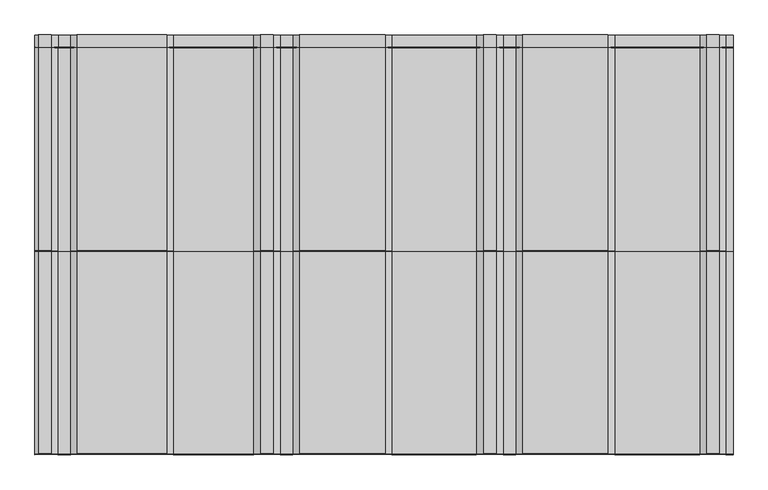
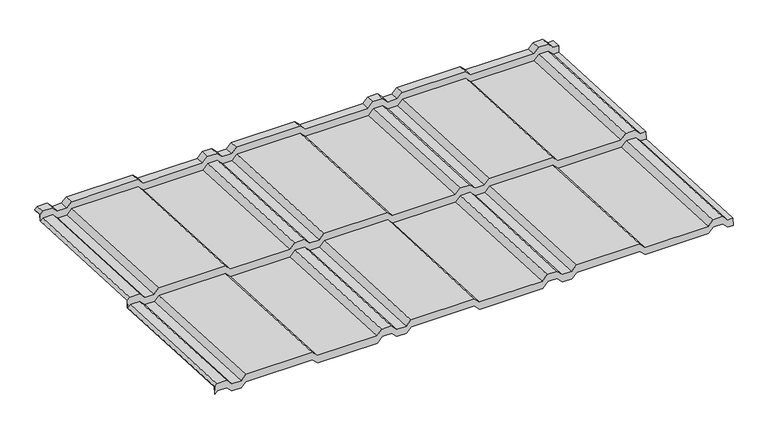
"""IFC4 building model written with IfcOpenShell, lengths in millimetres: proxy geometry, AQUAPLAST - Blachodachówka Alice : Blachodachówka Alice."""

from ifc_helpers import new_model, si_unit, origin, place, context, project, spatial, faceted_brep, source, transform, mapped, element, save


def specialty_equipment_83d03673(model_context):
    return source(origin(), model_context, "Body", "Brep", [
        faceted_brep([(-571.7598776, 0.6696996, 23.5766757), (-565.8406904, 0.9640097, 29.4885417), (-543.7088996, 0.9640097, 29.4885417), (-532.2088996, 0.3922139, 18.0027657), (-510.4160064, 0.3922139, 18.0027657), (-499.4160064, 0.939149, 28.9891601), (-345.3126919, 0.939149, 28.9891601), (-333.8126919, 0.3673532, 17.5033841), (-195.7283858, 0.3673532, 17.5033841), (-183.7283858, 0.9640097, 29.4885417), (-161.9160064, 0.9640097, 29.4885417), (-149.9160064, 0.3673532, 17.5033841), (-127.9160064, 0.3673532, 17.5033841), (-116.4160064, 0.939149, 28.9891601), (30.3015709, 0.939149, 28.9891601), (41.8015709, 0.3673532, 17.5033841), (187.7172647, 0.3673532, 17.5033841), (199.7172647, 0.9640097, 29.4885417), (221.5296441, 0.9640097, 29.4885417), (233.5296441, 0.3673532, 17.5033841), (255.5296441, 0.3673532, 17.5033841), (267.0296441, 0.939149, 28.9891601), (413.7472214, 0.939149, 28.9891601), (425.2472214, 0.3673532, 17.5033841), (571.8664164, 0.3673532, 17.5033841), (583.3664164, 0.939149, 28.9891601), (605.0839936, 0.939149, 28.9891601), (616.5839936, 0.3673532, 17.5033841), (629.2401224, 0.3673532, 17.5033841), (629.2401224, -0.4629937, 0.8240399), (616.5839936, -0.4629937, 0.8240399), (605.0839936, 0.1088021, 12.3098159), (583.3664164, 0.1088021, 12.3098159), (571.8664164, -0.4629937, 0.8240399), (425.2472214, -0.4629937, 0.8240399), (413.7472214, 0.1088021, 12.3098159), (267.0296441, 0.1088021, 12.3098159), (255.5296441, -0.4629937, 0.8240399), (233.5296441, -0.4629937, 0.8240399), (221.5296441, 0.1336628, 12.8091974), (199.7172647, 0.1336628, 12.8091974), (187.7172647, -0.4629937, 0.8240399), (41.8015709, -0.4629937, 0.8240399), (30.3015709, 0.1088021, 12.3098159), (-116.4160064, 0.1088021, 12.3098159), (-127.9160064, -0.4629937, 0.8240399), (-149.9160064, -0.4629937, 0.8240399), (-161.9160064, 0.1336628, 12.8091974), (-183.7283858, 0.1336628, 12.8091974), (-195.7283858, -0.4629937, 0.8240399), (-333.8126919, -0.4629937, 0.8240399), (-345.3126919, 0.1088021, 12.3098159), (-499.4160064, 0.1088021, 12.3098159), (-510.4160064, -0.438133, 1.3234215), (-532.2088996, -0.438133, 1.3234215), (-543.7088996, 0.1336628, 12.8091974), (-565.8406904, 0.1336628, 12.8091974), (-571.7598776, -0.1606473, 6.8973315), (-566.0477972, 699.809845, 29.1155052), (-571.7598776, 699.5258325, 23.4104899), (-571.7598776, 698.711645, 7.0557437), (-566.0477972, 698.9956575, 12.760759), (-543.5017928, 698.9956575, 12.760759), (-532.0017928, 698.4238617, 1.274983), (-510.6231132, 698.4238617, 1.274983), (-499.6231132, 698.9707968, 12.2613774), (-345.1055852, 698.9707968, 12.2613774), (-333.6055852, 698.399001, 0.7756015), (-195.9354926, 698.399001, 0.7756015), (-183.9354926, 698.9956575, 12.760759), (-161.7088996, 698.9956575, 12.760759), (-149.7088996, 698.399001, 0.7756015), (-128.1231132, 698.399001, 0.7756015), (-116.6231132, 698.9707968, 12.2613774), (30.5086777, 698.9707968, 12.2613774), (42.0086777, 698.399001, 0.7756015), (187.5101579, 698.399001, 0.7756015), (199.5101579, 698.9956575, 12.760759), (221.7367509, 698.9956575, 12.760759), (233.7367509, 698.399001, 0.7756015), (255.3225373, 698.399001, 0.7756015), (266.8225373, 698.9707968, 12.2613774), (413.9543281, 698.9707968, 12.2613774), (425.4543281, 698.399001, 0.7756015), (571.6593096, 698.399001, 0.7756015), (583.1593096, 698.9707968, 12.2613774), (605.2911004, 698.9707968, 12.2613774), (616.7911004, 698.399001, 0.7756015), (629.2401224, 698.399001, 0.7756015), (629.2401224, 699.2131885, 17.1303477), (616.7911004, 699.2131885, 17.1303477), (605.2911004, 699.7849843, 28.6161237), (583.1593096, 699.7849843, 28.6161237), (571.6593096, 699.2131885, 17.1303477), (425.4543281, 699.2131885, 17.1303477), (413.9543281, 699.7849843, 28.6161237), (266.8225373, 699.7849843, 28.6161237), (255.3225373, 699.2131885, 17.1303477), (233.7367509, 699.2131885, 17.1303477), (221.7367509, 699.809845, 29.1155052), (199.5101579, 699.809845, 29.1155052), (187.5101579, 699.2131885, 17.1303477), (42.0086777, 699.2131885, 17.1303477), (30.5086777, 699.7849843, 28.6161237), (-116.6231132, 699.7849843, 28.6161237), (-128.1231132, 699.2131885, 17.1303477), (-149.7088996, 699.2131885, 17.1303477), (-161.7088996, 699.809845, 29.1155052), (-183.9354926, 699.809845, 29.1155052), (-195.9354926, 699.2131885, 17.1303477), (-333.6055852, 699.2131885, 17.1303477), (-345.1055852, 699.7849843, 28.6161237), (-499.6231132, 699.7849843, 28.6161237), (-510.6231132, 699.2380492, 17.6297293), (-532.0017928, 699.2380492, 17.6297293), (-543.5017928, 699.809845, 29.1155052), (-510.4160064, 720.1872142, 16.0861988), (-532.2088996, 720.1872142, 16.0861988), (-543.7088996, 720.75901, 27.5719748), (-565.8406904, 720.75901, 27.5719748), (-571.7598776, 720.4646999, 21.6601089), (-571.7598776, 720.4998582, 22.3663411), (-566.0477972, 720.7838707, 28.0713564), (-543.5017928, 720.7838707, 28.0713564), (-532.0017928, 720.2120749, 16.5855804), (-510.6231132, 720.2120749, 16.5855804), (-499.6231132, 720.75901, 27.5719748), (-345.1055852, 720.75901, 27.5719748), (-333.6055852, 720.1872142, 16.0861988), (-195.9354926, 720.1872142, 16.0861988), (-183.9354926, 720.7838707, 28.0713564), (-161.7088996, 720.7838707, 28.0713564), (-149.7088996, 720.1872142, 16.0861988), (-128.1231132, 720.1872142, 16.0861988), (-116.6231132, 720.75901, 27.5719748), (30.5086777, 720.75901, 27.5719748), (42.0086777, 720.1872142, 16.0861988), (187.5101579, 720.1872142, 16.0861988), (199.5101579, 720.7838707, 28.0713564), (221.7367509, 720.7838707, 28.0713564), (233.7367509, 720.1872142, 16.0861988), (255.3225373, 720.1872142, 16.0861988), (266.8225373, 720.75901, 27.5719748), (413.9543281, 720.75901, 27.5719748), (425.4543281, 720.1872142, 16.0861988), (571.6593096, 720.1872142, 16.0861988), (583.1593096, 720.75901, 27.5719748), (605.2911004, 720.75901, 27.5719748), (616.7911004, 720.1872142, 16.0861988), (629.2401224, 720.1872142, 16.0861988), (629.2401224, 720.1623535, 15.5868173), (616.5839936, 720.1623535, 15.5868173), (605.0839936, 720.7341493, 27.0725932), (583.3664164, 720.7341493, 27.0725932), (571.8664164, 720.1623535, 15.5868173), (425.2472214, 720.1623535, 15.5868173), (413.7472214, 720.7341493, 27.0725932), (267.0296441, 720.7341493, 27.0725932), (255.5296441, 720.1623535, 15.5868173), (233.5296441, 720.1623535, 15.5868173), (221.5296441, 720.75901, 27.5719748), (199.7172647, 720.75901, 27.5719748), (187.7172647, 720.1623535, 15.5868173), (41.8015709, 720.1623535, 15.5868173), (30.3015709, 720.7341493, 27.0725932), (-116.4160064, 720.7341493, 27.0725932), (-127.9160064, 720.1623535, 15.5868173), (-149.9160064, 720.1623535, 15.5868173), (-161.9160064, 720.75901, 27.5719748), (-183.7283858, 720.75901, 27.5719748), (-195.7283858, 720.1623535, 15.5868173), (-333.8126919, 720.1623535, 15.5868173), (-345.3126919, 720.7341493, 27.0725932), (-499.4160064, 720.7341493, 27.0725932), (-571.7598776, 699.6752498, 6.2997901), (-571.7598776, 700.4894373, 22.6545364), (-565.8406904, 700.7837474, 28.5664023), (-543.7088996, 700.7837474, 28.5664023), (-532.2088996, 700.2119516, 17.0806263), (-510.4160064, 700.2119516, 17.0806263), (-499.4160064, 700.7588868, 28.0670207), (-345.3126919, 700.7588868, 28.0670207), (-333.8126919, 700.187091, 16.5812448), (-195.7283858, 700.187091, 16.5812448), (-183.7283858, 700.7837474, 28.5664023), (-161.9160064, 700.7837474, 28.5664023), (-149.9160064, 700.187091, 16.5812448), (-127.9160064, 700.187091, 16.5812448), (-116.4160064, 700.7588868, 28.0670207), (30.3015709, 700.7588868, 28.0670207), (41.8015709, 700.187091, 16.5812448), (187.7172647, 700.187091, 16.5812448), (199.7172647, 700.7837474, 28.5664023), (221.5296441, 700.7837474, 28.5664023), (233.5296441, 700.187091, 16.5812448), (255.5296441, 700.187091, 16.5812448), (267.0296441, 700.7588868, 28.0670207), (413.7472214, 700.7588868, 28.0670207), (425.2472214, 700.187091, 16.5812448), (571.8664164, 700.187091, 16.5812448), (583.3664164, 700.7588868, 28.0670207), (605.0839936, 700.7588868, 28.0670207), (616.5839936, 700.187091, 16.5812448), (629.2401224, 700.187091, 16.5812448), (629.2401224, 699.3729035, 0.2264985), (616.5839936, 699.3729035, 0.2264985), (605.0839936, 699.9446993, 11.7122745), (583.3664164, 699.9446993, 11.7122745), (571.8664164, 699.3729035, 0.2264985), (425.2472214, 699.3729035, 0.2264985), (413.7472214, 699.9446993, 11.7122745), (267.0296441, 699.9446993, 11.7122745), (255.5296441, 699.3729035, 0.2264985), (233.5296441, 699.3729035, 0.2264985), (221.5296441, 699.9695599, 12.2116561), (199.7172647, 699.9695599, 12.2116561), (187.7172647, 699.3729035, 0.2264985), (41.8015709, 699.3729035, 0.2264985), (30.3015709, 699.9446993, 11.7122745), (-116.4160064, 699.9446993, 11.7122745), (-127.9160064, 699.3729035, 0.2264985), (-149.9160064, 699.3729035, 0.2264985), (-161.9160064, 699.9695599, 12.2116561), (-183.7283858, 699.9695599, 12.2116561), (-195.7283858, 699.3729035, 0.2264985), (-333.8126919, 699.3729035, 0.2264985), (-345.3126919, 699.9446993, 11.7122745), (-499.4160064, 699.9446993, 11.7122745), (-510.4160064, 699.3977641, 0.7258801), (-532.2088996, 699.3977641, 0.7258801), (-543.7088996, 699.9695599, 12.2116561), (-565.8406904, 699.9695599, 12.2116561), (-566.0477972, 349.4285629, 30.1632399), (-571.7598776, 349.1445504, 24.4582245), (-571.7598776, 348.2744263, 6.9798698), (-566.0477972, 348.5584388, 12.6848851), (-543.5017928, 348.5584388, 12.6848851), (-532.0017928, 347.986643, 1.1991092), (-510.6231132, 347.986643, 1.1991092), (-499.6231132, 348.5335781, 12.1855036), (-345.1055852, 348.5335781, 12.1855036), (-333.6055852, 347.9617823, 0.6997276), (-195.9354926, 347.9617823, 0.6997276), (-183.9354926, 348.5584388, 12.6848851), (-161.7088996, 348.5584388, 12.6848851), (-149.7088996, 347.9617823, 0.6997276), (-128.1231132, 347.9617823, 0.6997276), (-116.6231132, 348.5335781, 12.1855036), (30.5086777, 348.5335781, 12.1855036), (42.0086777, 347.9617823, 0.6997276), (187.5101579, 347.9617823, 0.6997276), (199.5101579, 348.5584388, 12.6848851), (221.7367509, 348.5584388, 12.6848851), (233.7367509, 347.9617823, 0.6997276), (255.3225373, 347.9617823, 0.6997276), (266.8225373, 348.5335781, 12.1855036), (413.9543281, 348.5335781, 12.1855036), (425.4543281, 347.9617823, 0.6997276), (571.6593096, 347.9617823, 0.6997276), (583.1593096, 348.5335781, 12.1855036), (605.2911004, 348.5335781, 12.1855036), (616.7911004, 347.9617823, 0.6997276), (629.2401224, 347.9617823, 0.6997276), (629.2401224, 348.8319064, 18.1780823), (616.7911004, 348.8319064, 18.1780823), (605.2911004, 349.4037022, 29.6638583), (583.1593096, 349.4037022, 29.6638583), (571.6593096, 348.8319064, 18.1780823), (425.4543281, 348.8319064, 18.1780823), (413.9543281, 349.4037022, 29.6638583), (266.8225373, 349.4037022, 29.6638583), (255.3225373, 348.8319064, 18.1780823), (233.7367509, 348.8319064, 18.1780823), (221.7367509, 349.4285629, 30.1632399), (199.5101579, 349.4285629, 30.1632399), (187.5101579, 348.8319064, 18.1780823), (42.0086777, 348.8319064, 18.1780823), (30.5086777, 349.4037022, 29.6638583), (-116.6231132, 349.4037022, 29.6638583), (-128.1231132, 348.8319064, 18.1780823), (-149.7088996, 348.8319064, 18.1780823), (-161.7088996, 349.4285629, 30.1632399), (-183.9354926, 349.4285629, 30.1632399), (-195.9354926, 348.8319064, 18.1780823), (-333.6055852, 348.8319064, 18.1780823), (-345.1055852, 349.4037022, 29.6638583), (-499.6231132, 349.4037022, 29.6638583), (-510.6231132, 348.8567671, 18.6774639), (-532.0017928, 348.8567671, 18.6774639), (-543.5017928, 349.4285629, 30.1632399), (629.2401224, 349.8058088, 17.6289794), (616.5839936, 349.8058088, 17.6289794), (605.0839936, 350.3776046, 29.1147554), (583.3664164, 350.3776046, 29.1147554), (571.8664164, 349.8058088, 17.6289794), (425.2472214, 349.8058088, 17.6289794), (413.7472214, 350.3776046, 29.1147554), (267.0296441, 350.3776046, 29.1147554), (255.5296441, 349.8058088, 17.6289794), (233.5296441, 349.8058088, 17.6289794), (221.5296441, 350.4024653, 29.6141369), (199.7172647, 350.4024653, 29.6141369), (187.7172647, 349.8058088, 17.6289794), (41.8015709, 349.8058088, 17.6289794), (30.3015709, 350.3776046, 29.1147554), (-116.4160064, 350.3776046, 29.1147554), (-127.9160064, 349.8058088, 17.6289794), (-149.9160064, 349.8058088, 17.6289794), (-161.9160064, 350.4024653, 29.6141369), (-183.7283858, 350.4024653, 29.6141369), (-195.7283858, 349.8058088, 17.6289794), (-333.8126919, 349.8058088, 17.6289794), (-345.3126919, 350.3776046, 29.1147554), (-499.4160064, 350.3776046, 29.1147554), (-510.4160064, 349.8306695, 18.128361), (-532.2088996, 349.8306695, 18.128361), (-543.7088996, 350.4024653, 29.6141369), (-565.8406904, 350.4024653, 29.6141369), (-571.7598776, 350.1081552, 23.702271), (-566.0477972, -0.0098927, 30.0376446), (-571.7598776, -0.2939052, 24.3326293), (-571.7598776, -1.1594105, 6.9470529), (-565.8406904, -0.8651003, 12.8589188), (-543.7088996, -0.8651003, 12.8589188), (-532.2088996, -1.4368961, 1.3731429), (-510.4160064, -1.4368961, 1.3731429), (-499.4160064, -0.889961, 12.3595373), (-345.3126919, -0.889961, 12.3595373), (-333.8126919, -1.4617568, 0.8737613), (-195.7283858, -1.4617568, 0.8737613), (-183.7283858, -0.8651003, 12.8589188), (-161.9160064, -0.8651003, 12.8589188), (-149.9160064, -1.4617568, 0.8737613), (-127.9160064, -1.4617568, 0.8737613), (-116.4160064, -0.889961, 12.3595373), (30.3015709, -0.889961, 12.3595373), (41.8015709, -1.4617568, 0.8737613), (187.7172647, -1.4617568, 0.8737613), (199.7172647, -0.8651003, 12.8589188), (221.5296441, -0.8651003, 12.8589188), (233.5296441, -1.4617568, 0.8737613), (255.5296441, -1.4617568, 0.8737613), (267.0296441, -0.889961, 12.3595373), (413.7472214, -0.889961, 12.3595373), (425.2472214, -1.4617568, 0.8737613), (571.8664164, -1.4617568, 0.8737613), (583.3664164, -0.889961, 12.3595373), (605.0839936, -0.889961, 12.3595373), (616.5839936, -1.4617568, 0.8737613), (629.2401224, -1.4617568, 0.8737613), (629.2401224, -0.6065492, 18.0524871), (616.7911004, -0.6065492, 18.0524871), (605.2911004, -0.0347534, 29.538263), (583.1593096, -0.0347534, 29.538263), (571.6593096, -0.6065492, 18.0524871), (425.4543281, -0.6065492, 18.0524871), (413.9543281, -0.0347534, 29.538263), (266.8225373, -0.0347534, 29.538263), (255.3225373, -0.6065492, 18.0524871), (233.7367509, -0.6065492, 18.0524871), (221.7367509, -0.0098927, 30.0376446), (199.5101579, -0.0098927, 30.0376446), (187.5101579, -0.6065492, 18.0524871), (42.0086777, -0.6065492, 18.0524871), (30.5086777, -0.0347534, 29.538263), (-116.6231132, -0.0347534, 29.538263), (-128.1231132, -0.6065492, 18.0524871), (-149.7088996, -0.6065492, 18.0524871), (-161.7088996, -0.0098927, 30.0376446), (-183.9354926, -0.0098927, 30.0376446), (-195.9354926, -0.6065492, 18.0524871), (-333.6055852, -0.6065492, 18.0524871), (-345.1055852, -0.0347534, 29.538263), (-499.6231132, -0.0347534, 29.538263), (-510.6231132, -0.5816885, 18.5518686), (-532.0017928, -0.5816885, 18.5518686), (-543.5017928, -0.0098927, 30.0376446), (-510.4160064, 348.9605455, 0.6500062), (-532.2088996, 348.9605455, 0.6500062), (-543.7088996, 349.5323413, 12.1357822), (-565.8406904, 349.5323413, 12.1357822), (-571.7598776, 349.2380311, 6.2239163), (629.2401224, 348.9356848, 0.1506247), (616.5839936, 348.9356848, 0.1506247), (605.0839936, 349.5074806, 11.6364006), (583.3664164, 349.5074806, 11.6364006), (571.8664164, 348.9356848, 0.1506247), (425.2472214, 348.9356848, 0.1506247), (413.7472214, 349.5074806, 11.6364006), (267.0296441, 349.5074806, 11.6364006), (255.5296441, 348.9356848, 0.1506247), (233.5296441, 348.9356848, 0.1506247), (221.5296441, 349.5323413, 12.1357822), (199.7172647, 349.5323413, 12.1357822), (187.7172647, 348.9356848, 0.1506247), (41.8015709, 348.9356848, 0.1506247), (30.3015709, 349.5074806, 11.6364006), (-116.4160064, 349.5074806, 11.6364006), (-127.9160064, 348.9356848, 0.1506247), (-149.9160064, 348.9356848, 0.1506247), (-161.9160064, 349.5323413, 12.1357822), (-183.7283858, 349.5323413, 12.1357822), (-195.7283858, 348.9356848, 0.1506247), (-333.8126919, 348.9356848, 0.1506247), (-345.3126919, 349.5074806, 11.6364006), (-499.4160064, 349.5074806, 11.6364006), (616.5839936, 347.9369216, 0.200346), (605.0839936, 348.5087174, 11.686122), (583.3664164, 348.5087174, 11.686122), (571.8664164, 347.9369216, 0.200346), (425.2472214, 347.9369216, 0.200346), (413.7472214, 348.5087174, 11.686122), (267.0296441, 348.5087174, 11.686122), (255.5296441, 347.9369216, 0.200346), (233.5296441, 347.9369216, 0.200346), (221.5296441, 348.5335781, 12.1855036), (199.7172647, 348.5335781, 12.1855036), (187.7172647, 347.9369216, 0.200346), (41.8015709, 347.9369216, 0.200346), (30.3015709, 348.5087174, 11.686122), (-116.4160064, 348.5087174, 11.686122), (-127.9160064, 347.9369216, 0.200346), (-149.9160064, 347.9369216, 0.200346), (-161.9160064, 348.5335781, 12.1855036), (-183.7283858, 348.5335781, 12.1855036), (-195.7283858, 347.9369216, 0.200346), (-333.8126919, 347.9369216, 0.200346), (-345.3126919, 348.5087174, 11.686122), (-499.4160064, 348.5087174, 11.686122), (-510.4160064, 347.9617823, 0.6997276), (-532.2088996, 347.9617823, 0.6997276), (-543.7088996, 348.5335781, 12.1855036), (-565.8406904, 348.5335781, 12.1855036), (-566.0477972, 700.8086081, 29.0657839), (-543.5017928, 700.8086081, 29.0657839), (-532.0017928, 700.2368123, 17.5800079), (-510.6231132, 700.2368123, 17.5800079), (-499.6231132, 700.7837474, 28.5664023), (-345.1055852, 700.7837474, 28.5664023), (-333.6055852, 700.2119516, 17.0806263), (-195.9354926, 700.2119516, 17.0806263), (-183.9354926, 700.8086081, 29.0657839), (-161.7088996, 700.8086081, 29.0657839), (-149.7088996, 700.2119516, 17.0806263), (-128.1231132, 700.2119516, 17.0806263), (-116.6231132, 700.7837474, 28.5664023), (30.5086777, 700.7837474, 28.5664023), (42.0086777, 700.2119516, 17.0806263), (187.5101579, 700.2119516, 17.0806263), (199.5101579, 700.8086081, 29.0657839), (221.7367509, 700.8086081, 29.0657839), (233.7367509, 700.2119516, 17.0806263), (255.3225373, 700.2119516, 17.0806263), (266.8225373, 700.7837474, 28.5664023), (413.9543281, 700.7837474, 28.5664023), (425.4543281, 700.2119516, 17.0806263), (571.6593096, 700.2119516, 17.0806263), (583.1593096, 700.7837474, 28.5664023), (605.2911004, 700.7837474, 28.5664023), (616.7911004, 700.2119516, 17.0806263)], [[[0, 1, 2, 3, 4, 5, 6, 7, 8, 9, 10, 11, 12, 13, 14, 15, 16, 17, 18, 19, 20, 21, 22, 23, 24, 25, 26, 27, 28, 29, 30, 31, 32, 33, 34, 35, 36, 37, 38, 39, 40, 41, 42, 43, 44, 45, 46, 47, 48, 49, 50, 51, 52, 53, 54, 55, 56, 57]], [[58, 59, 60, 61, 62, 63, 64, 65, 66, 67, 68, 69, 70, 71, 72, 73, 74, 75, 76, 77, 78, 79, 80, 81, 82, 83, 84, 85, 86, 87, 88, 89, 90, 91, 92, 93, 94, 95, 96, 97, 98, 99, 100, 101, 102, 103, 104, 105, 106, 107, 108, 109, 110, 111, 112, 113, 114, 115]], [[116, 117, 118, 119, 120, 121, 122, 123, 124, 125, 126, 127, 128, 129, 130, 131, 132, 133, 134, 135, 136, 137, 138, 139, 140, 141, 142, 143, 144, 145, 146, 147, 148, 149, 150, 151, 152, 153, 154, 155, 156, 157, 158, 159, 160, 161, 162, 163, 164, 165, 166, 167, 168, 169, 170, 171, 172, 173]], [[174, 175, 176, 177, 178, 179, 180, 181, 182, 183, 184, 185, 186, 187, 188, 189, 190, 191, 192, 193, 194, 195, 196, 197, 198, 199, 200, 201, 202, 203, 204, 205, 206, 207, 208, 209, 210, 211, 212, 213, 214, 215, 216, 217, 218, 219, 220, 221, 222, 223, 224, 225, 226, 227, 228, 229, 230, 231]], [[232, 233, 234, 235, 236, 237, 238, 239, 240, 241, 242, 243, 244, 245, 246, 247, 248, 249, 250, 251, 252, 253, 254, 255, 256, 257, 258, 259, 260, 261, 262, 263, 264, 265, 266, 267, 268, 269, 270, 271, 272, 273, 274, 275, 276, 277, 278, 279, 280, 281, 282, 283, 284, 285, 286, 287, 288, 289]], [[287, 64, 63, 288]], [[286, 65, 64, 287]], [[285, 66, 65, 286]], [[284, 67, 66, 285]], [[283, 68, 67, 284]], [[282, 69, 68, 283]], [[281, 70, 69, 282]], [[280, 71, 70, 281]], [[279, 72, 71, 280]], [[278, 73, 72, 279]], [[277, 74, 73, 278]], [[276, 75, 74, 277]], [[275, 76, 75, 276]], [[274, 77, 76, 275]], [[273, 78, 77, 274]], [[272, 79, 78, 273]], [[271, 80, 79, 272]], [[270, 81, 80, 271]], [[269, 82, 81, 270]], [[268, 83, 82, 269]], [[267, 84, 83, 268]], [[266, 85, 84, 267]], [[265, 86, 85, 266]], [[264, 87, 86, 265]], [[264, 263, 88, 87]], [[204, 290, 291, 205]], [[205, 291, 292, 206]], [[206, 292, 293, 207]], [[207, 293, 294, 208]], [[208, 294, 295, 209]], [[209, 295, 296, 210]], [[210, 296, 297, 211]], [[211, 297, 298, 212]], [[212, 298, 299, 213]], [[213, 299, 300, 214]], [[214, 300, 301, 215]], [[215, 301, 302, 216]], [[216, 302, 303, 217]], [[217, 303, 304, 218]], [[218, 304, 305, 219]], [[219, 305, 306, 220]], [[220, 306, 307, 221]], [[221, 307, 308, 222]], [[222, 308, 309, 223]], [[223, 309, 310, 224]], [[224, 310, 311, 225]], [[225, 311, 312, 226]], [[226, 312, 313, 227]], [[227, 313, 314, 228]], [[228, 314, 315, 229]], [[229, 315, 316, 230]], [[230, 316, 317, 231]], [[231, 317, 318, 174]], [[61, 60, 233, 232]], [[289, 62, 61, 232]], [[288, 63, 62, 289]], [[319, 320, 321, 322, 323, 324, 325, 326, 327, 328, 329, 330, 331, 332, 333, 334, 335, 336, 337, 338, 339, 340, 341, 342, 343, 344, 345, 346, 347, 348, 349, 350, 351, 352, 353, 354, 355, 356, 357, 358, 359, 360, 361, 362, 363, 364, 365, 366, 367, 368, 369, 370, 371, 372, 373, 374, 375, 376]], [[377, 378, 379, 380, 381, 318, 317, 316, 315, 314, 313, 312, 311, 310, 309, 308, 307, 306, 305, 304, 303, 302, 301, 300, 299, 298, 297, 296, 295, 294, 293, 292, 291, 290, 382, 383, 384, 385, 386, 387, 388, 389, 390, 391, 392, 393, 394, 395, 396, 397, 398, 399, 400, 401, 402, 403, 404, 405]], [[374, 238, 237, 375]], [[373, 239, 238, 374]], [[372, 240, 239, 373]], [[371, 241, 240, 372]], [[370, 242, 241, 371]], [[369, 243, 242, 370]], [[368, 244, 243, 369]], [[367, 245, 244, 368]], [[366, 246, 245, 367]], [[365, 247, 246, 366]], [[364, 248, 247, 365]], [[363, 249, 248, 364]], [[362, 250, 249, 363]], [[361, 251, 250, 362]], [[360, 252, 251, 361]], [[359, 253, 252, 360]], [[358, 254, 253, 359]], [[357, 255, 254, 358]], [[356, 256, 255, 357]], [[355, 257, 256, 356]], [[354, 258, 257, 355]], [[353, 259, 258, 354]], [[352, 260, 259, 353]], [[351, 261, 260, 352]], [[351, 350, 262, 261]], [[382, 28, 27, 406, 383]], [[383, 406, 27, 26, 407, 384]], [[384, 407, 26, 25, 408, 385]], [[385, 408, 25, 24, 409, 386]], [[386, 409, 24, 23, 410, 387]], [[387, 410, 23, 22, 411, 388]], [[388, 411, 22, 21, 412, 389]], [[389, 412, 21, 20, 413, 390]], [[390, 413, 20, 19, 414, 391]], [[391, 414, 19, 18, 415, 392]], [[392, 415, 18, 17, 416, 393]], [[393, 416, 17, 16, 417, 394]], [[394, 417, 16, 15, 418, 395]], [[395, 418, 15, 14, 419, 396]], [[396, 419, 14, 13, 420, 397]], [[397, 420, 13, 12, 421, 398]], [[398, 421, 12, 11, 422, 399]], [[399, 422, 11, 10, 423, 400]], [[400, 423, 10, 9, 424, 401]], [[401, 424, 9, 8, 425, 402]], [[402, 425, 8, 7, 426, 403]], [[403, 426, 7, 6, 427, 404]], [[404, 427, 6, 5, 428, 405]], [[405, 428, 5, 4, 429, 377]], [[377, 429, 4, 3, 430, 378]], [[378, 430, 3, 2, 431, 379]], [[379, 431, 2, 1, 432, 380]], [[432, 1, 0, 381, 380]], [[235, 234, 320, 319]], [[376, 236, 235, 319]], [[375, 237, 236, 376]], [[348, 30, 29, 349]], [[347, 31, 30, 348]], [[346, 32, 31, 347]], [[345, 33, 32, 346]], [[344, 34, 33, 345]], [[343, 35, 34, 344]], [[342, 36, 35, 343]], [[341, 37, 36, 342]], [[340, 38, 37, 341]], [[339, 39, 38, 340]], [[338, 40, 39, 339]], [[337, 41, 40, 338]], [[336, 42, 41, 337]], [[335, 43, 42, 336]], [[334, 44, 43, 335]], [[333, 45, 44, 334]], [[332, 46, 45, 333]], [[331, 47, 46, 332]], [[330, 48, 47, 331]], [[329, 49, 48, 330]], [[328, 50, 49, 329]], [[327, 51, 50, 328]], [[326, 52, 51, 327]], [[325, 53, 52, 326]], [[324, 54, 53, 325]], [[323, 55, 54, 324]], [[322, 56, 55, 323]], [[321, 57, 56, 322]], [[116, 179, 178, 117]], [[117, 178, 177, 118]], [[118, 177, 176, 119]], [[176, 175, 120, 119]], [[122, 121, 59, 58, 433]], [[115, 434, 123, 122, 433, 58]], [[114, 435, 124, 123, 434, 115]], [[113, 436, 125, 124, 435, 114]], [[112, 437, 126, 125, 436, 113]], [[111, 438, 127, 126, 437, 112]], [[110, 439, 128, 127, 438, 111]], [[109, 440, 129, 128, 439, 110]], [[108, 441, 130, 129, 440, 109]], [[107, 442, 131, 130, 441, 108]], [[106, 443, 132, 131, 442, 107]], [[105, 444, 133, 132, 443, 106]], [[104, 445, 134, 133, 444, 105]], [[103, 446, 135, 134, 445, 104]], [[102, 447, 136, 135, 446, 103]], [[101, 448, 137, 136, 447, 102]], [[100, 449, 138, 137, 448, 101]], [[99, 450, 139, 138, 449, 100]], [[98, 451, 140, 139, 450, 99]], [[97, 452, 141, 140, 451, 98]], [[96, 453, 142, 141, 452, 97]], [[95, 454, 143, 142, 453, 96]], [[94, 455, 144, 143, 454, 95]], [[93, 456, 145, 144, 455, 94]], [[92, 457, 146, 145, 456, 93]], [[91, 458, 147, 146, 457, 92]], [[90, 459, 148, 147, 458, 91]], [[459, 90, 89, 149, 148]], [[150, 203, 202, 151]], [[151, 202, 201, 152]], [[152, 201, 200, 153]], [[153, 200, 199, 154]], [[154, 199, 198, 155]], [[155, 198, 197, 156]], [[156, 197, 196, 157]], [[157, 196, 195, 158]], [[158, 195, 194, 159]], [[159, 194, 193, 160]], [[160, 193, 192, 161]], [[161, 192, 191, 162]], [[162, 191, 190, 163]], [[163, 190, 189, 164]], [[164, 189, 188, 165]], [[165, 188, 187, 166]], [[166, 187, 186, 167]], [[167, 186, 185, 168]], [[168, 185, 184, 169]], [[169, 184, 183, 170]], [[170, 183, 182, 171]], [[171, 182, 181, 172]], [[172, 181, 180, 173]], [[173, 180, 179, 116]], [[203, 150, 149, 89, 88, 263, 262, 350, 349, 29, 28, 382, 290, 204]], [[321, 320, 234, 233, 60, 59, 121, 120, 175, 174, 318, 381, 0, 57]]]),
    ])


if __name__ == "__main__":
    model = new_model("IFC4")
    model_context = context("Model", 3, world=origin())
    ifc_project = project(units=[si_unit("LENGTHUNIT", "METRE", prefix="MILLI")], contexts=[model_context])
    site = spatial("IfcSite", under=ifc_project)
    building = spatial("IfcBuilding", under=site)
    placement = place(None, origin())
    specialty_equipment_shape = specialty_equipment_83d03673(model_context)
    element("IfcBuildingElementProxy", 1, Name="AQUAPLAST - Blachodachówka Alice : Blachodachówka Alice", ObjectType="AQUAPLAST - Blachodachówka Alice : Blachodachówka Alice", at=placement, inside=building, context=model_context, shape_type="MappedRepresentation", body=[
        mapped(specialty_equipment_shape, transform((0.0, 0.0, 0.0), x_axis=(1.0, 0.0, 0.0), y_axis=(0.0, 1.0, 0.0), z_axis=(0.0, 0.0, 1.0))),
    ])
    save(model, "model.ifc")
